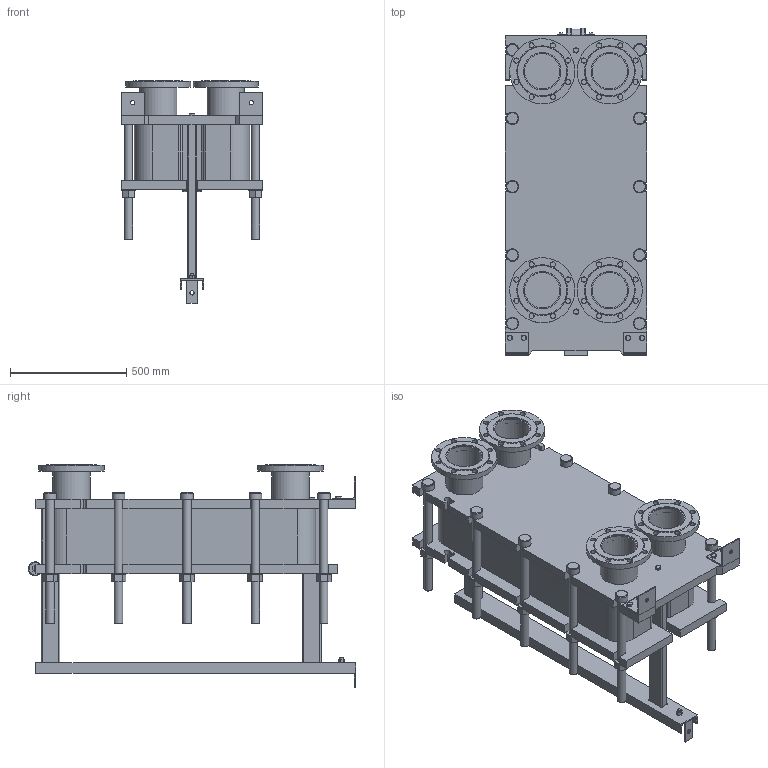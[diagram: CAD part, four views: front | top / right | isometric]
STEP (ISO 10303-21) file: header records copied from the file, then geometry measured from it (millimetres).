
FILE_DESCRIPTION(/* description */ (''),/* implementation_level */ '2;1');
FILE_NAME(/* name */ 'C:\Users\zhuro\Desktop\ENCO\TO\ЭН-041\ЭН-0,5-041-69-1.stp',/* time_stamp */ '2022-06-06T10:55:06+03:00',/* author */ ('zhuro'),/* organization */ (''),/* preprocessor_version */ 'ST-DEVELOPER v18.1',/* originating_system */ 'Autodesk Inventor 2022',/* authorisation */ '');
FILE_SCHEMA (('AUTOMOTIVE_DESIGN { 1 0 10303 214 3 1 1 }'));
Length unit declared in the file: millimetre
Products named in the file (1): ЭН-0,5-041-69-1
Bounding box: 610 x 1406.5 x 957.5 mm (x, y, z)
Volume: 212182896.8 mm3; surface area: 8340986.5 mm2
Topology: 52 solids, 52 shells, 711 faces, 1696 edges, 1094 vertices
Faces by surface type: plane 487, cylinder 177, cone 41, torus 6
Full cylindrical faces by diameter (mm): 8 x4, 10 x2, 16 x8, 18 x3, 22 x32, 36 x24, 50 x1, 54 x10, 60 x12, 151 x4, 161 x8, 280 x4
Entity records: 22667 total; most frequent: CARTESIAN_POINT 5230, DIRECTION 3644, ORIENTED_EDGE 3392, EDGE_CURVE 1696, AXIS2_PLACEMENT_3D 1272, LINE 1100, VECTOR 1100, VERTEX_POINT 1094
